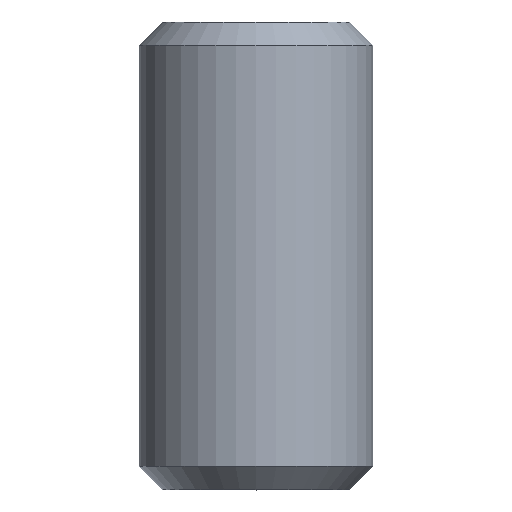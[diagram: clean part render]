
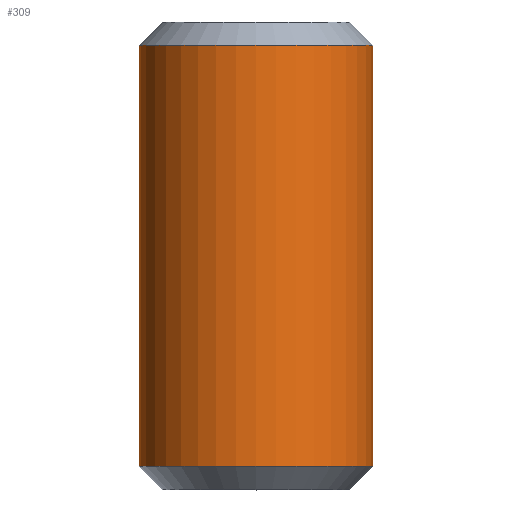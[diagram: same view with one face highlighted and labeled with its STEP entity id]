
A CAD part, top view. The second image highlights one B-rep face of the part: STEP entity #309.
In plain terms, the highlighted cylindrical face has radius 5 mm (diameter 10 mm), a full revolution.
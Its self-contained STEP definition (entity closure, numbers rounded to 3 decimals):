
#21=CYLINDRICAL_SURFACE('',#346,5.);
#84=ORIENTED_EDGE('',*,*,#159,.F.);
#85=ORIENTED_EDGE('',*,*,#158,.T.);
#158=EDGE_CURVE('',#196,#196,#217,.T.);
#159=EDGE_CURVE('',#197,#197,#218,.T.);
#196=VERTEX_POINT('',#494);
#197=VERTEX_POINT('',#497);
#217=CIRCLE('',#345,5.);
#218=CIRCLE('',#347,5.);
#234=EDGE_LOOP('',(#84));
#235=EDGE_LOOP('',(#85));
#264=FACE_BOUND('',#234,.T.);
#265=FACE_BOUND('',#235,.T.);
#309=ADVANCED_FACE('',(#264,#265),#21,.T.);
#345=AXIS2_PLACEMENT_3D('',#493,#392,#393);
#346=AXIS2_PLACEMENT_3D('',#495,#394,#395);
#347=AXIS2_PLACEMENT_3D('',#496,#396,#397);
#392=DIRECTION('',(0.,-1.,0.));
#393=DIRECTION('',(0.,0.,-1.));
#394=DIRECTION('',(0.,-1.,0.));
#395=DIRECTION('',(0.,0.,-1.));
#396=DIRECTION('',(0.,-1.,0.));
#397=DIRECTION('',(0.,0.,-1.));
#493=CARTESIAN_POINT('',(0.,19.,0.));
#494=CARTESIAN_POINT('',(0.,19.,-5.));
#495=CARTESIAN_POINT('',(0.,0.,0.));
#496=CARTESIAN_POINT('',(0.,1.,0.));
#497=CARTESIAN_POINT('',(0.,1.,-5.));
